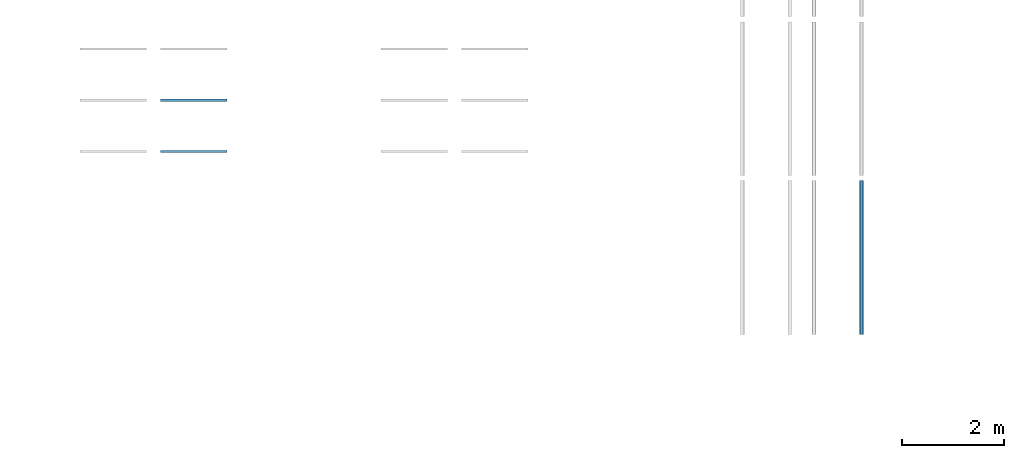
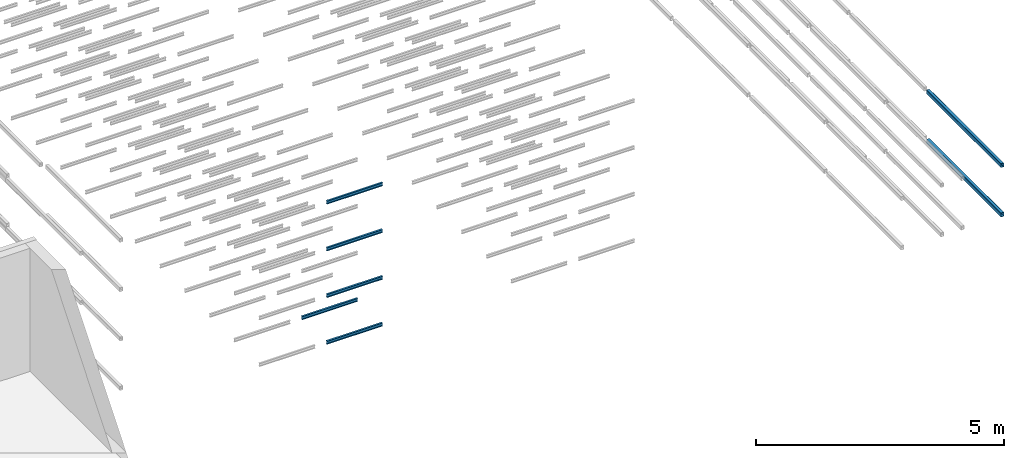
# One storey, part 96 of 290: 7 beams.
"""IFC2X3 building model written with IfcOpenShell, lengths in metres."""

from ifc_helpers import new_model, entity, si_unit, converted_unit, derived_unit, direction, frame, frame_2d, origin, place, context, subcontext, project, spatial, polyline, circle_curve, parameter, trimmed, segment, composite_curve, outline, extrude, material, type_object, element, save


model = new_model("IFC2X3")

# Units and contexts
model_context = context("Model", 3, precision=1e-05, world=origin(), true_north=direction((6.12303176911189e-17, 1.0)))
body_context = subcontext(model_context, "Body", "Model", "MODEL_VIEW")
ifc_project = project(units=[si_unit("LENGTHUNIT", "METRE"), si_unit("AREAUNIT", "SQUARE_METRE"), si_unit("VOLUMEUNIT", "CUBIC_METRE"), converted_unit("PLANEANGLEUNIT", "DEGREE", entity("IfcRatioMeasure", 0.0174532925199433), si_unit("PLANEANGLEUNIT", "RADIAN"), dimensions=[0, 0, 0, 0, 0, 0, 0]), si_unit("MASSUNIT", "GRAM", prefix="KILO"), derived_unit("MASSDENSITYUNIT", [(si_unit("MASSUNIT", "GRAM", prefix="KILO"), 1), (si_unit("LENGTHUNIT", "METRE"), -3)]), derived_unit("MOMENTOFINERTIAUNIT", [(si_unit("LENGTHUNIT", "METRE"), 4)]), si_unit("TIMEUNIT", "SECOND"), si_unit("FREQUENCYUNIT", "HERTZ"), si_unit("THERMODYNAMICTEMPERATUREUNIT", "DEGREE_CELSIUS"), derived_unit("THERMALTRANSMITTANCEUNIT", [(si_unit("MASSUNIT", "GRAM", prefix="KILO"), 1), (si_unit("THERMODYNAMICTEMPERATUREUNIT", "KELVIN"), -1), (si_unit("TIMEUNIT", "SECOND"), -3)]), derived_unit("VOLUMETRICFLOWRATEUNIT", [(si_unit("LENGTHUNIT", "METRE"), 3), (si_unit("TIMEUNIT", "SECOND"), -1)]), si_unit("ELECTRICCURRENTUNIT", "AMPERE"), si_unit("ELECTRICVOLTAGEUNIT", "VOLT"), si_unit("POWERUNIT", "WATT"), si_unit("FORCEUNIT", "NEWTON", prefix="KILO"), si_unit("ILLUMINANCEUNIT", "LUX"), si_unit("LUMINOUSFLUXUNIT", "LUMEN"), si_unit("LUMINOUSINTENSITYUNIT", "CANDELA"), derived_unit("USERDEFINED", [(si_unit("MASSUNIT", "GRAM", prefix="KILO"), -1), (si_unit("LENGTHUNIT", "METRE"), -2), (si_unit("TIMEUNIT", "SECOND"), 3), (si_unit("LUMINOUSFLUXUNIT", "LUMEN"), 1)]), derived_unit("LINEARVELOCITYUNIT", [(si_unit("LENGTHUNIT", "METRE"), 1), (si_unit("TIMEUNIT", "SECOND"), -1)]), si_unit("PRESSUREUNIT", "PASCAL"), derived_unit("USERDEFINED", [(si_unit("LENGTHUNIT", "METRE"), -2), (si_unit("MASSUNIT", "GRAM", prefix="KILO"), 1), (si_unit("TIMEUNIT", "SECOND"), -2)]), derived_unit("LINEARFORCEUNIT", [(si_unit("MASSUNIT", "GRAM", prefix="KILO"), 1), (si_unit("LENGTHUNIT", "METRE"), 1), (si_unit("TIMEUNIT", "SECOND"), -2), (si_unit("LENGTHUNIT", "METRE"), -1)]), derived_unit("PLANARFORCEUNIT", [(si_unit("MASSUNIT", "GRAM", prefix="KILO"), 1), (si_unit("LENGTHUNIT", "METRE"), 1), (si_unit("TIMEUNIT", "SECOND"), -2), (si_unit("LENGTHUNIT", "METRE"), -2)])], contexts=[model_context])

# Site, building, storey
site_placement = place(None, origin())
site = spatial("IfcSite", under=ifc_project, at=site_placement, Name="Default", CompositionType="ELEMENT")
building_placement = place(site_placement, origin())
building = spatial("IfcBuilding", under=site, at=building_placement, CompositionType="ELEMENT")
storey_placement = place(building_placement, frame((0.0, 0.0, 4.0)))
storey = spatial("IfcBuildingStorey", under=building, at=storey_placement, Name="01_OG", CompositionType="ELEMENT", Elevation=4.0)

# Beams
ifc_material_1 = material(Name="Metall - Baustahl S235 blau")
beam_type_1 = type_object("IfcBeamType", Name="RHS Träger (EN 10219-2):RHS 100 x 75 x 5", PredefinedType="NOTDEFINED")
beam_1_placement = place(storey_placement, frame((-156.868311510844, 20.4480889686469, 0.0150000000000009), z_axis=(0.0, 0.0, 1.0), x_axis=(0.0, 1.0, 0.0)))
element("IfcBeam", 1, at=beam_1_placement, inside=storey, type_object=beam_type_1, material=ifc_material_1, Name="RHS Träger (EN 10219-2):RHS 100 x 75 x 5", ObjectType="RHS Träger (EN 10219-2):RHS 100 x 75 x 5", context=body_context, shape_type="SweptSolid", body=[
    extrude(outline(composite_curve([segment(polyline([(-0.0400000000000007, -0.0374999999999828), (0.0399999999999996, -0.0374999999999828)]), True, "CONTINUOUS"), segment(trimmed(circle_curve(frame_2d((0.0399999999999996, -0.0274999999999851), x_axis=(0.0, 1.0)), 0.01), [parameter(180.0)], [parameter(270.0)], True, "PARAMETER"), True, "CONTINUOUS"), segment(polyline([(0.0499999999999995, -0.0274999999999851), (0.0499999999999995, 0.0274999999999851)]), True, "CONTINUOUS"), segment(trimmed(circle_curve(frame_2d((0.0399999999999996, 0.0274999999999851), x_axis=(0.0, 1.0)), 0.01), [parameter(270.0)], [parameter(4.07110999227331e-13)], True, "PARAMETER"), True, "CONTINUOUS"), segment(polyline([(0.0399999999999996, 0.0375000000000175), (-0.0400000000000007, 0.0375000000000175)]), True, "CONTINUOUS"), segment(trimmed(circle_curve(frame_2d((-0.0400000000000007, 0.0274999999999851), x_axis=(0.0, 1.0)), 0.01), [parameter(360.0)], [parameter(90.0000000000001)], True, "PARAMETER"), True, "CONTINUOUS"), segment(polyline([(-0.0500000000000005, 0.0274999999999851), (-0.0500000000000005, -0.0274999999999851)]), True, "CONTINUOUS"), segment(trimmed(circle_curve(frame_2d((-0.0400000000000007, -0.0274999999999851), x_axis=(0.0, 1.0)), 0.01), [parameter(90.0000000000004)], [parameter(180.0)], True, "PARAMETER"), True, "CONTINUOUS")], self_intersect=False), holes=[composite_curve([segment(trimmed(circle_curve(frame_2d((-0.0400000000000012, 0.0274999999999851), x_axis=(0.0, 1.0)), 0.005), [parameter(360.0)], [parameter(89.9999999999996)], True, "PARAMETER"), False, "CONTINUOUS"), segment(polyline([(-0.0400000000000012, 0.0325000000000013), (0.0399999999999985, 0.0325000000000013)]), True, "CONTINUOUS"), segment(trimmed(circle_curve(frame_2d((0.0399999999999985, 0.0274999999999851), x_axis=(0.0, 1.0)), 0.005), [parameter(270.0)], [parameter(0.0)], True, "PARAMETER"), False, "CONTINUOUS"), segment(polyline([(0.0449999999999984, 0.0274999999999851), (0.0449999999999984, -0.0274999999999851)]), True, "CONTINUOUS"), segment(trimmed(circle_curve(frame_2d((0.0399999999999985, -0.0274999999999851), x_axis=(0.0, 1.0)), 0.005), [parameter(180.0)], [parameter(269.999999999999)], True, "PARAMETER"), False, "CONTINUOUS"), segment(polyline([(0.0399999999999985, -0.0325000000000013), (-0.0400000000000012, -0.0325000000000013)]), True, "CONTINUOUS"), segment(trimmed(circle_curve(frame_2d((-0.0400000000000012, -0.0274999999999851), x_axis=(0.0, 1.0)), 0.005), [parameter(90.0000000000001)], [parameter(180.0)], True, "PARAMETER"), False, "CONTINUOUS"), segment(polyline([(-0.0450000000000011, -0.0274999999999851), (-0.0450000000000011, 0.0274999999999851)]), True, "CONTINUOUS")], self_intersect=False)]), frame((9.99999999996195e-05, -0.0375000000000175, -0.0500000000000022), z_axis=(1.0, 0.0, 0.0), x_axis=(0.0, 0.0, -1.0)), (0.0, 0.0, 1.0), 2.9998),
])
beam_2_placement = place(storey_placement, frame((-156.868311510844, 20.4480889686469, -1.2), z_axis=(0.0, 0.0, 1.0), x_axis=(0.0, 1.0, 0.0)))
element("IfcBeam", 2, at=beam_2_placement, inside=storey, type_object=beam_type_1, material=ifc_material_1, Name="RHS Träger (EN 10219-2):RHS 100 x 75 x 5", ObjectType="RHS Träger (EN 10219-2):RHS 100 x 75 x 5", context=body_context, shape_type="SweptSolid", body=[
    extrude(outline(composite_curve([segment(polyline([(-0.0400000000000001, -0.0374999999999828), (0.0400000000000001, -0.0374999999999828)]), True, "CONTINUOUS"), segment(trimmed(circle_curve(frame_2d((0.0400000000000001, -0.0274999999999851), x_axis=(0.0, 1.0)), 0.01), [parameter(180.0)], [parameter(270.0)], True, "PARAMETER"), True, "CONTINUOUS"), segment(polyline([(0.05, -0.0274999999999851), (0.05, 0.0274999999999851)]), True, "CONTINUOUS"), segment(trimmed(circle_curve(frame_2d((0.0400000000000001, 0.0274999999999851), x_axis=(0.0, 1.0)), 0.01), [parameter(270.0)], [parameter(4.07110999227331e-13)], True, "PARAMETER"), True, "CONTINUOUS"), segment(polyline([(0.0400000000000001, 0.0375000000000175), (-0.0400000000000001, 0.0375000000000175)]), True, "CONTINUOUS"), segment(trimmed(circle_curve(frame_2d((-0.0400000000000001, 0.0274999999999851), x_axis=(0.0, 1.0)), 0.01), [parameter(360.0)], [parameter(90.0000000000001)], True, "PARAMETER"), True, "CONTINUOUS"), segment(polyline([(-0.05, 0.0274999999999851), (-0.05, -0.0274999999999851)]), True, "CONTINUOUS"), segment(trimmed(circle_curve(frame_2d((-0.0400000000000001, -0.0274999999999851), x_axis=(0.0, 1.0)), 0.01), [parameter(90.0000000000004)], [parameter(180.0)], True, "PARAMETER"), True, "CONTINUOUS")], self_intersect=False), holes=[composite_curve([segment(trimmed(circle_curve(frame_2d((-0.0400000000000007, 0.0274999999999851), x_axis=(0.0, 1.0)), 0.005), [parameter(360.0)], [parameter(89.9999999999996)], True, "PARAMETER"), False, "CONTINUOUS"), segment(polyline([(-0.0400000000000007, 0.0325000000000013), (0.039999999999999, 0.0325000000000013)]), True, "CONTINUOUS"), segment(trimmed(circle_curve(frame_2d((0.039999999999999, 0.0274999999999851), x_axis=(0.0, 1.0)), 0.005), [parameter(270.0)], [parameter(0.0)], True, "PARAMETER"), False, "CONTINUOUS"), segment(polyline([(0.044999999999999, 0.0274999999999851), (0.044999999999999, -0.0274999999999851)]), True, "CONTINUOUS"), segment(trimmed(circle_curve(frame_2d((0.039999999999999, -0.0274999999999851), x_axis=(0.0, 1.0)), 0.005), [parameter(180.0)], [parameter(269.999999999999)], True, "PARAMETER"), False, "CONTINUOUS"), segment(polyline([(0.039999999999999, -0.0325000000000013), (-0.0400000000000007, -0.0325000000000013)]), True, "CONTINUOUS"), segment(trimmed(circle_curve(frame_2d((-0.0400000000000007, -0.0274999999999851), x_axis=(0.0, 1.0)), 0.005), [parameter(90.0000000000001)], [parameter(180.0)], True, "PARAMETER"), False, "CONTINUOUS"), segment(polyline([(-0.0450000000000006, -0.0274999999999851), (-0.0450000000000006, 0.0274999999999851)]), True, "CONTINUOUS")], self_intersect=False)]), frame((9.99999999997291e-05, -0.0375000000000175, -0.0500000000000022), z_axis=(1.0, 0.0, 0.0), x_axis=(0.0, 0.0, -1.0)), (0.0, 0.0, 1.0), 2.9998),
])
ifc_material_2 = material(Name="Metall - Baustahl S235")
beam_type_2 = type_object("IfcBeamType", Name="IPN Träger:IPN 80", PredefinedType="NOTDEFINED")
beam_3_placement = place(storey_placement, frame((-170.510111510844, 24.994588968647, -1.73)))
element("IfcBeam", 3, at=beam_3_placement, inside=storey, type_object=beam_type_2, material=ifc_material_2, Name="IPN Träger:IPN 80", ObjectType="IPN Träger:IPN 80", context=body_context, shape_type="SweptSolid", body=[
    extrude(outline(composite_curve([segment(polyline([(0.0375704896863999, -0.0209999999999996), (0.0399999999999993, -0.0209999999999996)]), True, "CONTINUOUS"), segment(polyline([(0.0399999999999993, -0.0209999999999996), (0.0399999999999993, 0.0209999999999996)]), True, "CONTINUOUS"), segment(polyline([(0.0399999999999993, 0.0209999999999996), (0.0375704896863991, 0.0209999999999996)]), True, "CONTINUOUS"), segment(trimmed(circle_curve(frame_2d((0.0375704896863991, 0.0187000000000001), x_axis=(0.0, 1.0)), 0.00230000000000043), [parameter(0.0)], [parameter(82.0299999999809)], True, "PARAMETER"), True, "CONTINUOUS"), segment(polyline([(0.0352927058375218, 0.0190189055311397), (0.0333732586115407, 0.00530924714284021)]), True, "CONTINUOUS"), segment(trimmed(circle_curve(frame_2d((0.0295109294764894, 0.00584999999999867), x_axis=(0.990340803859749, -0.138654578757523)), 0.00389999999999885), [parameter(277.969999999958)], [parameter(0.0)], True, "PARAMETER"), False, "CONTINUOUS"), segment(polyline([(0.0295109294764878, 0.00194999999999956), (-0.0295109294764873, 0.00194999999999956)]), True, "CONTINUOUS"), segment(trimmed(circle_curve(frame_2d((-0.0295109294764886, 0.00584999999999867), x_axis=(0.0, -1.0)), 0.00389999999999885), [parameter(277.969999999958)], [parameter(0.0)], True, "PARAMETER"), False, "CONTINUOUS"), segment(polyline([(-0.0333732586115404, 0.00530924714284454), (-0.0352927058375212, 0.019018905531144)]), True, "CONTINUOUS"), segment(trimmed(circle_curve(frame_2d((-0.0375704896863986, 0.0187000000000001), x_axis=(0.990340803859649, 0.138654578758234)), 0.00230000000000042), [parameter(0.0)], [parameter(82.0299999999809)], True, "PARAMETER"), True, "CONTINUOUS"), segment(polyline([(-0.0375704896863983, 0.0209999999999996), (-0.0400000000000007, 0.0209999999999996)]), True, "CONTINUOUS"), segment(polyline([(-0.0400000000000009, 0.0209999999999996), (-0.0400000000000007, -0.0209999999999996)]), True, "CONTINUOUS"), segment(polyline([(-0.0400000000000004, -0.0209999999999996), (-0.0375704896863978, -0.0209999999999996)]), True, "CONTINUOUS"), segment(trimmed(circle_curve(frame_2d((-0.0375704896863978, -0.0187000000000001), x_axis=(0.0, -1.0)), 0.00230000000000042), [parameter(0.0)], [parameter(82.0299999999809)], True, "PARAMETER"), True, "CONTINUOUS"), segment(polyline([(-0.0352927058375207, -0.0190189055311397), (-0.0333732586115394, -0.00530924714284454)]), True, "CONTINUOUS"), segment(trimmed(circle_curve(frame_2d((-0.0295109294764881, -0.00584999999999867), x_axis=(-0.990340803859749, 0.138654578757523)), 0.00389999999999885), [parameter(277.969999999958)], [parameter(0.0)], True, "PARAMETER"), False, "CONTINUOUS"), segment(polyline([(-0.0295109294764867, -0.00194999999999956), (0.0295109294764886, -0.00194999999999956)]), True, "CONTINUOUS"), segment(trimmed(circle_curve(frame_2d((0.0295109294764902, -0.00584999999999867), x_axis=(0.0, 1.0)), 0.0038999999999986), [parameter(277.969999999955)], [parameter(0.0)], True, "PARAMETER"), False, "CONTINUOUS"), segment(polyline([(0.0333732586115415, -0.00530924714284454), (0.0352927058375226, -0.019018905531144)]), True, "CONTINUOUS"), segment(trimmed(circle_curve(frame_2d((0.0375704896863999, -0.0187000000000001), x_axis=(-0.990340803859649, -0.138654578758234)), 0.00230000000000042), [parameter(0.0)], [parameter(82.0299999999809)], True, "PARAMETER"), True, "CONTINUOUS")], self_intersect=False)), frame((0.00010000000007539, 0.0209999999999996, -0.0400000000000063), z_axis=(1.0, 0.0, 0.0), x_axis=(0.0, 0.0, -1.0)), (0.0, 0.0, 1.0), 1.29990000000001),
])
beam_4_placement = place(storey_placement, frame((-170.510111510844, 23.994588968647, -1.73)))
element("IfcBeam", 4, at=beam_4_placement, inside=storey, type_object=beam_type_2, material=ifc_material_2, Name="IPN Träger:IPN 80", ObjectType="IPN Träger:IPN 80", context=body_context, shape_type="SweptSolid", body=[
    extrude(outline(composite_curve([segment(polyline([(0.0375704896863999, -0.0210000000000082), (0.0399999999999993, -0.0210000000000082)]), True, "CONTINUOUS"), segment(polyline([(0.0399999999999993, -0.0210000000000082), (0.0399999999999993, 0.0209999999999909)]), True, "CONTINUOUS"), segment(polyline([(0.0399999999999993, 0.0209999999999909), (0.0375704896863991, 0.0209999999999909)]), True, "CONTINUOUS"), segment(trimmed(circle_curve(frame_2d((0.0375704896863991, 0.0186999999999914), x_axis=(0.0, 1.0)), 0.00230000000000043), [parameter(0.0)], [parameter(82.0299999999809)], True, "PARAMETER"), True, "CONTINUOUS"), segment(polyline([(0.0352927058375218, 0.019018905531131), (0.0333732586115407, 0.00530924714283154)]), True, "CONTINUOUS"), segment(trimmed(circle_curve(frame_2d((0.0295109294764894, 0.00584999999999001), x_axis=(0.990340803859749, -0.138654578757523)), 0.00389999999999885), [parameter(277.969999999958)], [parameter(0.0)], True, "PARAMETER"), False, "CONTINUOUS"), segment(polyline([(0.0295109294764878, 0.00194999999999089), (-0.0295109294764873, 0.00194999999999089)]), True, "CONTINUOUS"), segment(trimmed(circle_curve(frame_2d((-0.0295109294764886, 0.00584999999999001), x_axis=(0.0, -1.0)), 0.00389999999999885), [parameter(277.969999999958)], [parameter(0.0)], True, "PARAMETER"), False, "CONTINUOUS"), segment(polyline([(-0.0333732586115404, 0.00530924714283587), (-0.0352927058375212, 0.0190189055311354)]), True, "CONTINUOUS"), segment(trimmed(circle_curve(frame_2d((-0.0375704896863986, 0.0186999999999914), x_axis=(0.990340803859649, 0.138654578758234)), 0.00230000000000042), [parameter(0.0)], [parameter(82.0299999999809)], True, "PARAMETER"), True, "CONTINUOUS"), segment(polyline([(-0.0375704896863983, 0.0209999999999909), (-0.0400000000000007, 0.0209999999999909)]), True, "CONTINUOUS"), segment(polyline([(-0.0400000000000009, 0.0209999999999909), (-0.0400000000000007, -0.0210000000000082)]), True, "CONTINUOUS"), segment(polyline([(-0.0400000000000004, -0.0210000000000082), (-0.0375704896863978, -0.0210000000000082)]), True, "CONTINUOUS"), segment(trimmed(circle_curve(frame_2d((-0.0375704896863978, -0.0187000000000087), x_axis=(0.0, -1.0)), 0.00230000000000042), [parameter(0.0)], [parameter(82.0299999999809)], True, "PARAMETER"), True, "CONTINUOUS"), segment(polyline([(-0.0352927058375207, -0.0190189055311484), (-0.0333732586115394, -0.0053092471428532)]), True, "CONTINUOUS"), segment(trimmed(circle_curve(frame_2d((-0.0295109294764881, -0.00585000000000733), x_axis=(-0.990340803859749, 0.138654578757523)), 0.00389999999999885), [parameter(277.969999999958)], [parameter(0.0)], True, "PARAMETER"), False, "CONTINUOUS"), segment(polyline([(-0.0295109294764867, -0.00195000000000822), (0.0295109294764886, -0.00195000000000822)]), True, "CONTINUOUS"), segment(trimmed(circle_curve(frame_2d((0.0295109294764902, -0.00585000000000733), x_axis=(0.0, 1.0)), 0.0038999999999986), [parameter(277.969999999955)], [parameter(0.0)], True, "PARAMETER"), False, "CONTINUOUS"), segment(polyline([(0.0333732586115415, -0.0053092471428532), (0.0352927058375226, -0.0190189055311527)]), True, "CONTINUOUS"), segment(trimmed(circle_curve(frame_2d((0.0375704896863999, -0.0187000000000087), x_axis=(-0.990340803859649, -0.138654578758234)), 0.00230000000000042), [parameter(0.0)], [parameter(82.0299999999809)], True, "PARAMETER"), True, "CONTINUOUS")], self_intersect=False)), frame((0.00010000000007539, 0.0210000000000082, -0.0400000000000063), z_axis=(1.0, 0.0, 0.0), x_axis=(0.0, 0.0, -1.0)), (0.0, 0.0, 1.0), 1.29990000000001),
])
beam_5_placement = place(storey_placement, frame((-170.510111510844, 23.994588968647, -0.579999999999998)))
element("IfcBeam", 5, at=beam_5_placement, inside=storey, type_object=beam_type_2, material=ifc_material_2, Name="IPN Träger:IPN 80", ObjectType="IPN Träger:IPN 80", context=body_context, shape_type="SweptSolid", body=[
    extrude(outline(composite_curve([segment(polyline([(0.0375704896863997, -0.0210000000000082), (0.039999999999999, -0.0210000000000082)]), True, "CONTINUOUS"), segment(polyline([(0.039999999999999, -0.0210000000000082), (0.039999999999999, 0.0209999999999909)]), True, "CONTINUOUS"), segment(polyline([(0.039999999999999, 0.0209999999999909), (0.0375704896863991, 0.0209999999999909)]), True, "CONTINUOUS"), segment(trimmed(circle_curve(frame_2d((0.0375704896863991, 0.0186999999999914), x_axis=(0.0, 1.0)), 0.00230000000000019), [parameter(0.0)], [parameter(82.02999999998)], True, "PARAMETER"), True, "CONTINUOUS"), segment(polyline([(0.0352927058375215, 0.019018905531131), (0.0333732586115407, 0.00530924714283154)]), True, "CONTINUOUS"), segment(trimmed(circle_curve(frame_2d((0.0295109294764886, 0.00584999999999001), x_axis=(0.990340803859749, -0.138654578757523)), 0.00389999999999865), [parameter(277.969999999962)], [parameter(0.0)], True, "PARAMETER"), False, "CONTINUOUS"), segment(polyline([(0.0295109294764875, 0.00194999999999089), (-0.0295109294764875, 0.00194999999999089)]), True, "CONTINUOUS"), segment(trimmed(circle_curve(frame_2d((-0.0295109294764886, 0.00584999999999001), x_axis=(0.0, -1.0)), 0.00389999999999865), [parameter(277.969999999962)], [parameter(0.0)], True, "PARAMETER"), False, "CONTINUOUS"), segment(polyline([(-0.0333732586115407, 0.00530924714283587), (-0.0352927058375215, 0.0190189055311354)]), True, "CONTINUOUS"), segment(trimmed(circle_curve(frame_2d((-0.0375704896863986, 0.0186999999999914), x_axis=(0.990340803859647, 0.138654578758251)), 0.00230000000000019), [parameter(0.0)], [parameter(82.02999999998)], True, "PARAMETER"), True, "CONTINUOUS"), segment(polyline([(-0.0375704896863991, 0.0209999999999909), (-0.0400000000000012, 0.0209999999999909)]), True, "CONTINUOUS"), segment(polyline([(-0.0400000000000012, 0.0209999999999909), (-0.0400000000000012, -0.0210000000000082)]), True, "CONTINUOUS"), segment(polyline([(-0.0400000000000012, -0.0210000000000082), (-0.037570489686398, -0.0210000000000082)]), True, "CONTINUOUS"), segment(trimmed(circle_curve(frame_2d((-0.037570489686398, -0.0187000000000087), x_axis=(0.0, -1.0)), 0.00230000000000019), [parameter(0.0)], [parameter(82.02999999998)], True, "PARAMETER"), True, "CONTINUOUS"), segment(polyline([(-0.035292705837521, -0.0190189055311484), (-0.0333732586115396, -0.0053092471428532)]), True, "CONTINUOUS"), segment(trimmed(circle_curve(frame_2d((-0.0295109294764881, -0.00585000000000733), x_axis=(-0.990340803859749, 0.138654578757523)), 0.00389999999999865), [parameter(277.969999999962)], [parameter(0.0)], True, "PARAMETER"), False, "CONTINUOUS"), segment(polyline([(-0.029510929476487, -0.00195000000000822), (0.0295109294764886, -0.00195000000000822)]), True, "CONTINUOUS"), segment(trimmed(circle_curve(frame_2d((0.0295109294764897, -0.00585000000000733), x_axis=(0.0, 1.0)), 0.00389999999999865), [parameter(277.969999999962)], [parameter(0.0)], True, "PARAMETER"), False, "CONTINUOUS"), segment(polyline([(0.0333732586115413, -0.0053092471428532), (0.0352927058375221, -0.0190189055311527)]), True, "CONTINUOUS"), segment(trimmed(circle_curve(frame_2d((0.0375704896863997, -0.0187000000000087), x_axis=(-0.990340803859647, -0.138654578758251)), 0.00230000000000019), [parameter(0.0)], [parameter(82.02999999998)], True, "PARAMETER"), True, "CONTINUOUS")], self_intersect=False)), frame((0.000100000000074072, 0.0210000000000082, -0.0400000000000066), z_axis=(1.0, 0.0, 0.0), x_axis=(0.0, 0.0, -1.0)), (0.0, 0.0, 1.0), 1.29990000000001),
])
beam_6_placement = place(storey_placement, frame((-170.510111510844, 23.994588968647, 0.570000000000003)))
element("IfcBeam", 6, at=beam_6_placement, inside=storey, type_object=beam_type_2, material=ifc_material_2, Name="IPN Träger:IPN 80", ObjectType="IPN Träger:IPN 80", context=body_context, shape_type="SweptSolid", body=[
    extrude(outline(composite_curve([segment(polyline([(0.0375704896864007, -0.0210000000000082), (0.0400000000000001, -0.0210000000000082)]), True, "CONTINUOUS"), segment(polyline([(0.0400000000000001, -0.0210000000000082), (0.0400000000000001, 0.0209999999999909)]), True, "CONTINUOUS"), segment(polyline([(0.0400000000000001, 0.0209999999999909), (0.0375704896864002, 0.0209999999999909)]), True, "CONTINUOUS"), segment(trimmed(circle_curve(frame_2d((0.0375704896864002, 0.0186999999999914), x_axis=(0.0, 1.0)), 0.00230000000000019), [parameter(0.0)], [parameter(82.02999999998)], True, "PARAMETER"), True, "CONTINUOUS"), segment(polyline([(0.0352927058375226, 0.019018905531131), (0.0333732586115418, 0.00530924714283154)]), True, "CONTINUOUS"), segment(trimmed(circle_curve(frame_2d((0.0295109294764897, 0.00584999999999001), x_axis=(0.990340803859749, -0.138654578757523)), 0.00389999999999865), [parameter(277.969999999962)], [parameter(0.0)], True, "PARAMETER"), False, "CONTINUOUS"), segment(polyline([(0.0295109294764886, 0.00194999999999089), (-0.0295109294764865, 0.00194999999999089)]), True, "CONTINUOUS"), segment(trimmed(circle_curve(frame_2d((-0.0295109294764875, 0.00584999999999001), x_axis=(0.0, -1.0)), 0.00389999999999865), [parameter(277.969999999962)], [parameter(0.0)], True, "PARAMETER"), False, "CONTINUOUS"), segment(polyline([(-0.0333732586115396, 0.00530924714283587), (-0.0352927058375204, 0.0190189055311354)]), True, "CONTINUOUS"), segment(trimmed(circle_curve(frame_2d((-0.0375704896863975, 0.0186999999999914), x_axis=(0.990340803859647, 0.138654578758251)), 0.00230000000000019), [parameter(0.0)], [parameter(82.02999999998)], True, "PARAMETER"), True, "CONTINUOUS"), segment(polyline([(-0.037570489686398, 0.0209999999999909), (-0.0400000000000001, 0.0209999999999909)]), True, "CONTINUOUS"), segment(polyline([(-0.0400000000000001, 0.0209999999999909), (-0.0400000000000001, -0.0210000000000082)]), True, "CONTINUOUS"), segment(polyline([(-0.0400000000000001, -0.0210000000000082), (-0.0375704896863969, -0.0210000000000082)]), True, "CONTINUOUS"), segment(trimmed(circle_curve(frame_2d((-0.0375704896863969, -0.0187000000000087), x_axis=(0.0, -1.0)), 0.00230000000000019), [parameter(0.0)], [parameter(82.02999999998)], True, "PARAMETER"), True, "CONTINUOUS"), segment(polyline([(-0.0352927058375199, -0.0190189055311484), (-0.0333732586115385, -0.0053092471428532)]), True, "CONTINUOUS"), segment(trimmed(circle_curve(frame_2d((-0.029510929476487, -0.00585000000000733), x_axis=(-0.990340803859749, 0.138654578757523)), 0.00389999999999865), [parameter(277.969999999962)], [parameter(0.0)], True, "PARAMETER"), False, "CONTINUOUS"), segment(polyline([(-0.0295109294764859, -0.00195000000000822), (0.0295109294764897, -0.00195000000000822)]), True, "CONTINUOUS"), segment(trimmed(circle_curve(frame_2d((0.0295109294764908, -0.00585000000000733), x_axis=(0.0, 1.0)), 0.00389999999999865), [parameter(277.969999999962)], [parameter(0.0)], True, "PARAMETER"), False, "CONTINUOUS"), segment(polyline([(0.0333732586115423, -0.0053092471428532), (0.0352927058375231, -0.0190189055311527)]), True, "CONTINUOUS"), segment(trimmed(circle_curve(frame_2d((0.0375704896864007, -0.0187000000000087), x_axis=(-0.990340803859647, -0.138654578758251)), 0.00230000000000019), [parameter(0.0)], [parameter(82.02999999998)], True, "PARAMETER"), True, "CONTINUOUS")], self_intersect=False)), frame((0.000100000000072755, 0.0210000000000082, -0.0400000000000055), z_axis=(1.0, 0.0, 0.0), x_axis=(0.0, 0.0, -1.0)), (0.0, 0.0, 1.0), 1.29990000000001),
])
beam_7_placement = place(storey_placement, frame((-170.510111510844, 23.994588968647, 1.72)))
element("IfcBeam", 7, at=beam_7_placement, inside=storey, type_object=beam_type_2, material=ifc_material_2, Name="IPN Träger:IPN 80", ObjectType="IPN Träger:IPN 80", context=body_context, shape_type="SweptSolid", body=[
    extrude(outline(composite_curve([segment(polyline([(0.0375704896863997, -0.0210000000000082), (0.0399999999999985, -0.0210000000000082)]), True, "CONTINUOUS"), segment(polyline([(0.0399999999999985, -0.0210000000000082), (0.0399999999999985, 0.0209999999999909)]), True, "CONTINUOUS"), segment(polyline([(0.0399999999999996, 0.0209999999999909), (0.0375704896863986, 0.0209999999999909)]), True, "CONTINUOUS"), segment(trimmed(circle_curve(frame_2d((0.0375704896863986, 0.0186999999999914), x_axis=(0.0, 1.0)), 0.00230000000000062), [parameter(0.0)], [parameter(82.0299999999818)], True, "PARAMETER"), True, "CONTINUOUS"), segment(polyline([(0.0352927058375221, 0.019018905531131), (0.0333732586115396, 0.00530924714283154)]), True, "CONTINUOUS"), segment(trimmed(circle_curve(frame_2d((0.0295109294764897, 0.00584999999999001), x_axis=(0.990340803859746, -0.138654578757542)), 0.00389999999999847), [parameter(277.969999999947)], [parameter(0.0)], True, "PARAMETER"), False, "CONTINUOUS"), segment(polyline([(0.0295109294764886, 0.00194999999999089), (-0.0295109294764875, 0.00194999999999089)]), True, "CONTINUOUS"), segment(trimmed(circle_curve(frame_2d((-0.0295109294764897, 0.00584999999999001), x_axis=(0.0, -1.0)), 0.00389999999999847), [parameter(277.969999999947)], [parameter(0.0)], True, "PARAMETER"), False, "CONTINUOUS"), segment(polyline([(-0.0333732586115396, 0.00530924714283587), (-0.0352927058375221, 0.0190189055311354)]), True, "CONTINUOUS"), segment(trimmed(circle_curve(frame_2d((-0.0375704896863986, 0.0186999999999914), x_axis=(0.990340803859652, 0.138654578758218)), 0.00230000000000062), [parameter(0.0)], [parameter(82.0299999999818)], True, "PARAMETER"), True, "CONTINUOUS"), segment(polyline([(-0.0375704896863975, 0.0209999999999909), (-0.0400000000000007, 0.0209999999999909)]), True, "CONTINUOUS"), segment(polyline([(-0.0400000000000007, 0.0209999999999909), (-0.0400000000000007, -0.0210000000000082)]), True, "CONTINUOUS"), segment(polyline([(-0.0400000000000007, -0.0210000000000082), (-0.0375704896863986, -0.0210000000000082)]), True, "CONTINUOUS"), segment(trimmed(circle_curve(frame_2d((-0.0375704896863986, -0.0187000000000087), x_axis=(0.0, -1.0)), 0.00230000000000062), [parameter(0.0)], [parameter(82.0299999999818)], True, "PARAMETER"), True, "CONTINUOUS"), segment(polyline([(-0.035292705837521, -0.0190189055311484), (-0.0333732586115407, -0.0053092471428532)]), True, "CONTINUOUS"), segment(trimmed(circle_curve(frame_2d((-0.0295109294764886, -0.00585000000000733), x_axis=(-0.990340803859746, 0.138654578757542)), 0.00389999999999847), [parameter(277.969999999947)], [parameter(0.0)], True, "PARAMETER"), False, "CONTINUOUS"), segment(polyline([(-0.0295109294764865, -0.00195000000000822), (0.0295109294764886, -0.00195000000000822)]), True, "CONTINUOUS"), segment(trimmed(circle_curve(frame_2d((0.0295109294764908, -0.00585000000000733), x_axis=(0.0, 1.0)), 0.00389999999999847), [parameter(277.969999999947)], [parameter(0.0)], True, "PARAMETER"), False, "CONTINUOUS"), segment(polyline([(0.0333732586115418, -0.0053092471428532), (0.0352927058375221, -0.0190189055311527)]), True, "CONTINUOUS"), segment(trimmed(circle_curve(frame_2d((0.0375704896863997, -0.0187000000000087), x_axis=(-0.990340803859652, -0.138654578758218)), 0.00230000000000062), [parameter(0.0)], [parameter(82.0299999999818)], True, "PARAMETER"), True, "CONTINUOUS")], self_intersect=False)), frame((0.000100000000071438, 0.0210000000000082, -0.040000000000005), z_axis=(1.0, 0.0, 0.0), x_axis=(0.0, 0.0, -1.0)), (0.0, 0.0, 1.0), 1.29990000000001),
])

save(model, "model.ifc")
